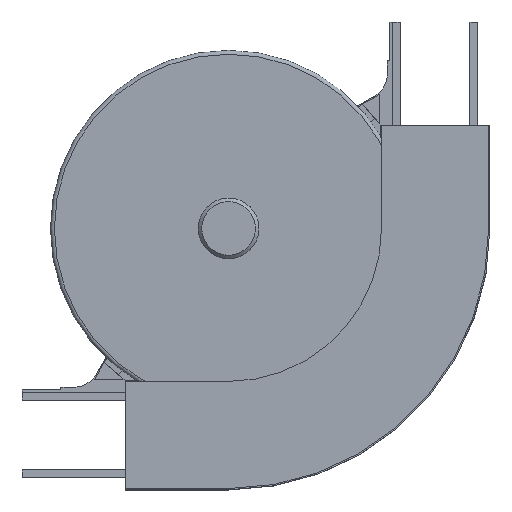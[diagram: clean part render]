
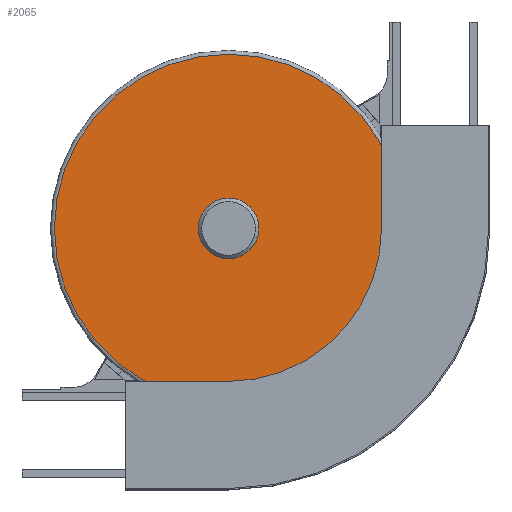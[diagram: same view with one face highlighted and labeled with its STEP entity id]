
A CAD part, top view. The second image highlights one B-rep face of the part: STEP entity #2065.
In plain terms, the highlighted planar face has unit normal (0, 0, 1).
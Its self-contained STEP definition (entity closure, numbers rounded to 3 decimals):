
#38=FACE_BOUND('',#289,.T.);
#79=CIRCLE('',#2223,21.);
#80=CIRCLE('',#2225,135.);
#164=FACE_OUTER_BOUND('',#288,.T.);
#288=EDGE_LOOP('',(#1523));
#289=EDGE_LOOP('',(#1524));
#935=VERTEX_POINT('',#3085);
#936=VERTEX_POINT('',#3089);
#1153=EDGE_CURVE('',#935,#935,#79,.T.);
#1155=EDGE_CURVE('',#936,#936,#80,.T.);
#1523=ORIENTED_EDGE('',*,*,#1155,.F.);
#1524=ORIENTED_EDGE('',*,*,#1153,.T.);
#1956=PLANE('',#2224);
#2065=ADVANCED_FACE('',(#164,#38),#1956,.T.);
#2223=AXIS2_PLACEMENT_3D('',#3086,#2504,#2505);
#2224=AXIS2_PLACEMENT_3D('',#3088,#2507,#2508);
#2225=AXIS2_PLACEMENT_3D('',#3090,#2509,#2510);
#2504=DIRECTION('center_axis',(0.,0.,-1.));
#2505=DIRECTION('ref_axis',(1.,0.,0.));
#2507=DIRECTION('center_axis',(0.,0.,1.));
#2508=DIRECTION('ref_axis',(1.,0.,0.));
#2509=DIRECTION('center_axis',(0.,0.,-1.));
#2510=DIRECTION('ref_axis',(1.,0.,0.));
#3085=CARTESIAN_POINT('',(94.849,145.151,39.));
#3086=CARTESIAN_POINT('Origin',(80.,160.,39.));
#3088=CARTESIAN_POINT('Origin',(-15.459,255.459,39.));
#3089=CARTESIAN_POINT('',(215.,160.,39.));
#3090=CARTESIAN_POINT('Origin',(80.,160.,39.));
